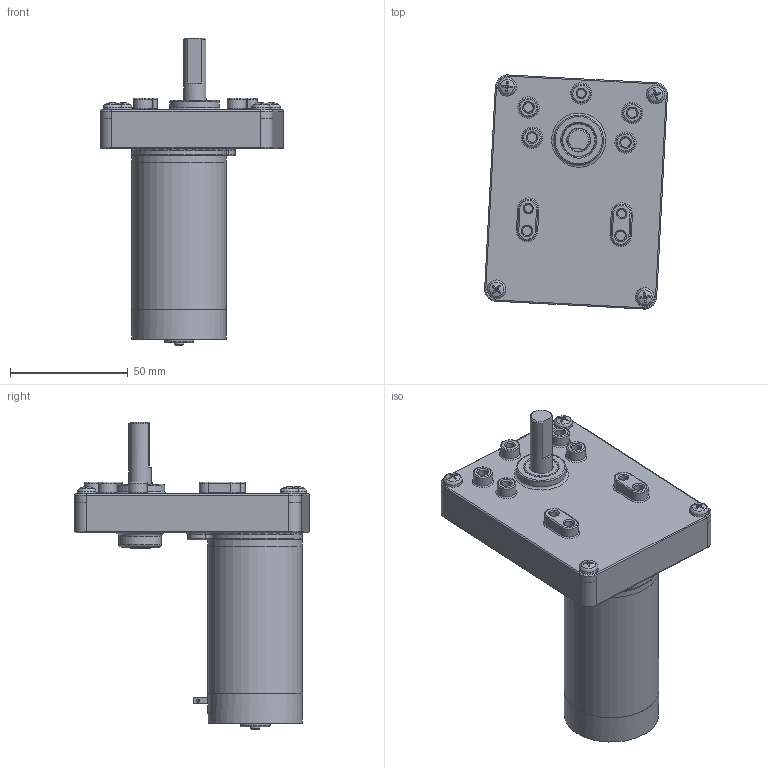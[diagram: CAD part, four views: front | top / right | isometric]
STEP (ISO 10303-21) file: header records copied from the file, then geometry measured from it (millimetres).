
FILE_DESCRIPTION(/* description */ (''),/* implementation_level */ '2;1');
FILE_NAME(/* name */ 'C:\Users\byjeong\Desktop\3D도면\SP46BT.stp',/* time_stamp */ '2015-03-31T15:29:43+09:00',/* author */ ('byjeong'),/* organization */ (''),/* preprocessor_version */ 'ST-DEVELOPER v15.6',/* originating_system */ 'Autodesk Inventor 2015',/* authorisation */ '');
FILE_SCHEMA (('AUTOMOTIVE_DESIGN { 1 0 10303 214 3 1 1 }'));
Length unit declared in the file: millimetre
Products named in the file (10): SQ BOX ASSY; RM4TYPE_BRUSH_BRAKET_TERMINAL; RM4TYPE_REAR_HOUSING; REAR_HOUSING__ASS'Y_TERMINAL; RM4TYPE_FRONT_HOUSING_; RM4TYPE_PIPE_HOUSING_pi40XL62.4; RM46TYPE_SHAFT; AS 1427 Z - 미터 M3.5 x 5; RM46ㅁBT; 조립품23
Bounding box: 77.42 x 99.18 x 130.37 mm (x, y, z)
Volume: 151869.1 mm3; surface area: 50663.3 mm2
Topology: 12 solids, 12 shells, 472 faces, 1097 edges, 688 vertices
Faces by surface type: plane 160, cone 119, cylinder 108, torus 78, sphere 4, bspline 3
Full cylindrical faces by diameter (mm): 1.2 x2, 2.7 x4, 2.8 x4, 3.132 x2, 3.3 x4, 3.4 x3, 3.5 x3, 3.571 x3, 3.7 x2, 3.9 x1, 3.969 x1, 4 x10, 4.4 x3, 5 x1, 6.1 x2, 6.5 x1, 6.65 x1, 8 x5, 9.5 x3, 12.7 x3, 13.5 x2, 14.3 x1, 18 x1, 21 x1, 36.5 x1, 40 x3
Entity records: 12187 total; most frequent: CARTESIAN_POINT 2888, DIRECTION 2002, ORIENTED_EDGE 1642, AXIS2_PLACEMENT_3D 899, EDGE_CURVE 821, EDGE_LOOP 651, VERTEX_POINT 594, CIRCLE 443
